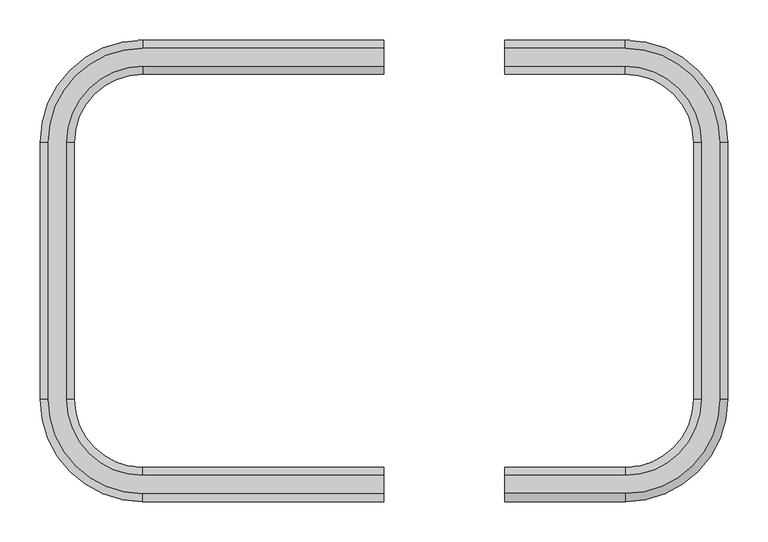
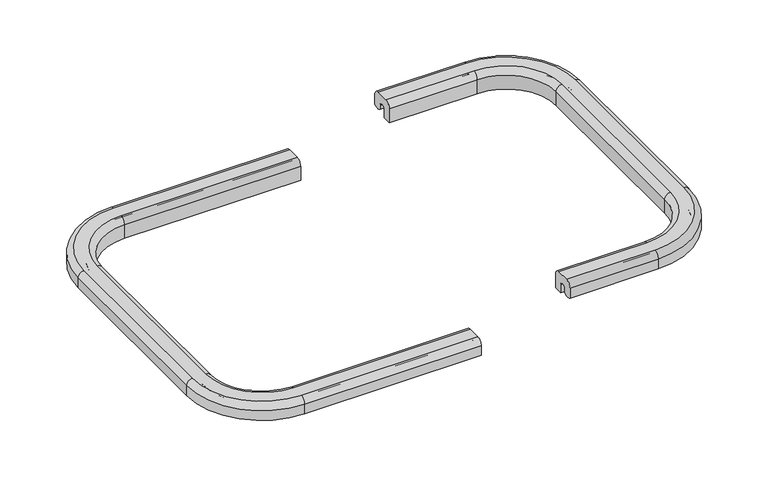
"""IFC4 building model written with IfcOpenShell, lengths in millimetres: furniture geometry, BIMHealth-Cot-LOD2A-v1 : BIMHealth-Cot-LOD2A-v1."""

from ifc_helpers import new_model, si_unit, point, frame, origin, place, context, project, spatial, polyline, circle_curve, ellipse_curve, trimmed, source, transform, mapped, element, save
from ifc_brep_helpers import plane_surface, cylinder_surface, revolved_surface, advanced_brep


def furniture_1190518a(model_context):
    return source(origin(), model_context, "Body", "AdvancedBrep", [
        advanced_brep(
        [(150.0, -272.5, 1063.7133718), (150.0, -272.5, 1078.7133718), (150.0, -277.5, 1083.7133718), (150.0, -280.0, 1083.7133718), (150.0, -285.0, 1078.7133718), (150.0, -285.0, 1071.2133718), (150.0, -300.0, 1071.2133718), (150.0, -300.0, 1088.7133718), (150.0, -290.0, 1098.7133718), (150.0, -267.5, 1098.7133718), (150.0, -257.5, 1088.7133718), (150.0, -257.5, 1063.7133718), (300.0, -272.5, 1063.7133718), (300.0, -272.5, 1078.7133718), (300.0, -277.5, 1083.7133718), (405.0, -172.5, 1083.7133718), (405.0, 147.5, 1083.7133718), (300.0, 252.5, 1083.7133718), (150.0, 252.5, 1083.7133718), (150.0, 255.0, 1083.7133718), (300.0, 255.0, 1083.7133718), (407.5, 147.5, 1083.7133718), (407.5, -172.5, 1083.7133718), (300.0, -280.0, 1083.7133718), (300.0, -285.0, 1078.7133718), (300.0, -285.0, 1071.2133718), (300.0, -300.0, 1071.2133718), (300.0, -300.0, 1088.7133718), (300.0, -290.0, 1098.7133718), (417.5, -172.5, 1098.7133718), (417.5, 147.5, 1098.7133718), (300.0, 265.0, 1098.7133718), (150.0, 265.0, 1098.7133718), (150.0, 242.5, 1098.7133718), (300.0, 242.5, 1098.7133718), (395.0, 147.5, 1098.7133718), (395.0, -172.5, 1098.7133718), (300.0, -267.5, 1098.7133718), (300.0, -257.5, 1088.7133718), (300.0, -257.5, 1063.7133718), (385.0, -172.5, 1063.7133718), (385.0, 147.5, 1063.7133718), (300.0, 232.5, 1063.7133718), (150.0, 232.5, 1063.7133718), (150.0, 247.5, 1063.7133718), (300.0, 247.5, 1063.7133718), (400.0, 147.5, 1063.7133718), (400.0, -172.5, 1063.7133718), (400.0, -172.5, 1078.7133718), (412.5, -172.5, 1078.7133718), (412.5, -172.5, 1071.2133718), (427.5, -172.5, 1071.2133718), (427.5, -172.5, 1088.7133718), (385.0, -172.5, 1088.7133718), (400.0, 147.5, 1078.7133718), (412.5, 147.5, 1078.7133718), (412.5, 147.5, 1071.2133718), (427.5, 147.5, 1071.2133718), (427.5, 147.5, 1088.7133718), (385.0, 147.5, 1088.7133718), (300.0, 247.5, 1078.7133718), (300.0, 260.0, 1078.7133718), (300.0, 260.0, 1071.2133718), (300.0, 275.0, 1071.2133718), (300.0, 275.0, 1088.7133718), (300.0, 232.5, 1088.7133718), (150.0, 232.5, 1088.7133718), (150.0, 275.0, 1088.7133718), (150.0, 275.0, 1071.2133718), (150.0, 260.0, 1071.2133718), (150.0, 260.0, 1078.7133718), (150.0, 247.5, 1078.7133718)],
        [
            (0, 1),
            (1, 2, circle_curve(frame((150.0, -277.5, 1078.7133718), z_axis=(1.0, 0.0, 0.0), x_axis=(0.0, 1.0, 0.0)), 5.0)),
            (2, 3),
            (3, 4, circle_curve(frame((150.0, -280.0, 1078.7133718), z_axis=(1.0, 0.0, 0.0), x_axis=(0.0, 1.0, 0.0)), 5.0)),
            (4, 5),
            (5, 6, circle_curve(frame((150.0, -292.5, 1080.2734209), z_axis=(-1.0, 0.0, 0.0), x_axis=(0.0, 1.0, 0.0)), 11.7615683)),
            (6, 7),
            (7, 8, circle_curve(frame((150.0, -290.0, 1088.7133718), z_axis=(-1.0, 0.0, 0.0), x_axis=(0.0, 1.0, 0.0)), 10.0)),
            (8, 9),
            (9, 10, circle_curve(frame((150.0, -267.5, 1088.7133718), z_axis=(-1.0, 0.0, 0.0), x_axis=(0.0, 1.0, 0.0)), 10.0)),
            (10, 11),
            (11, 0),
            (0, 12),
            (12, 13),
            (13, 1),
            (13, 14, circle_curve(frame((300.0, -277.5, 1078.7133718), z_axis=(1.0, 0.0, 0.0), x_axis=(0.0, 1.0, 0.0)), 5.0)),
            (14, 2),
            (14, 15, circle_curve(frame((300.0, -172.5, 1083.7133718), z_axis=(0.0, 0.0, 1.0), x_axis=(0.0, -1.0, 0.0)), 105.0)),
            (15, 16),
            (16, 17, circle_curve(frame((300.0, 147.5, 1083.7133718), z_axis=(0.0, 0.0, 1.0), x_axis=(1.0, 0.0, 0.0)), 105.0)),
            (17, 18),
            (18, 19),
            (19, 20),
            (20, 21, circle_curve(frame((300.0, 147.5, 1083.7133718), z_axis=(0.0, 0.0, -1.0), x_axis=(1.0, 0.0, 0.0)), 107.5)),
            (21, 22),
            (22, 23, circle_curve(frame((300.0, -172.5, 1083.7133718), z_axis=(0.0, 0.0, -1.0), x_axis=(0.0, -1.0, 0.0)), 107.5)),
            (23, 3),
            (23, 24, circle_curve(frame((300.0, -280.0, 1078.7133718), z_axis=(1.0, 0.0, 0.0), x_axis=(0.0, 1.0, 0.0)), 5.0)),
            (24, 4),
            (24, 25),
            (25, 5),
            (25, 26, circle_curve(frame((300.0, -292.5, 1080.2734209), z_axis=(-1.0, 0.0, 0.0), x_axis=(0.0, 1.0, 0.0)), 11.7615683)),
            (26, 6),
            (26, 27),
            (27, 7),
            (27, 28, circle_curve(frame((300.0, -290.0, 1088.7133718), z_axis=(-1.0, 0.0, 0.0), x_axis=(0.0, 1.0, 0.0)), 10.0)),
            (28, 8),
            (28, 29, circle_curve(frame((300.0, -172.5, 1098.7133718), z_axis=(0.0, 0.0, 1.0), x_axis=(0.0, -1.0, 0.0)), 117.5)),
            (29, 30),
            (30, 31, circle_curve(frame((300.0, 147.5, 1098.7133718), z_axis=(0.0, 0.0, 1.0), x_axis=(1.0, 0.0, 0.0)), 117.5)),
            (31, 32),
            (32, 33),
            (33, 34),
            (34, 35, circle_curve(frame((300.0, 147.5, 1098.7133718), z_axis=(0.0, 0.0, -1.0), x_axis=(1.0, 0.0, 0.0)), 95.0)),
            (35, 36),
            (36, 37, circle_curve(frame((300.0, -172.5, 1098.7133718), z_axis=(0.0, 0.0, -1.0), x_axis=(0.0, -1.0, 0.0)), 95.0)),
            (37, 9),
            (37, 38, circle_curve(frame((300.0, -267.5, 1088.7133718), z_axis=(-1.0, 0.0, 0.0), x_axis=(0.0, 1.0, 0.0)), 10.0)),
            (38, 10),
            (38, 39),
            (39, 11),
            (39, 40, circle_curve(frame((300.0, -172.5, 1063.7133718), z_axis=(0.0, 0.0, 1.0), x_axis=(0.0, -1.0, 0.0)), 85.0)),
            (40, 41),
            (41, 42, circle_curve(frame((300.0, 147.5, 1063.7133718), z_axis=(0.0, 0.0, 1.0), x_axis=(1.0, 0.0, 0.0)), 85.0)),
            (42, 43),
            (43, 44),
            (44, 45),
            (45, 46, circle_curve(frame((300.0, 147.5, 1063.7133718), z_axis=(0.0, 0.0, -1.0), x_axis=(1.0, 0.0, 0.0)), 100.0)),
            (46, 47),
            (47, 12, circle_curve(frame((300.0, -172.5, 1063.7133718), z_axis=(0.0, 0.0, -1.0), x_axis=(0.0, -1.0, 0.0)), 100.0)),
            (48, 13, circle_curve(frame((300.0, -172.5, 1078.7133718), z_axis=(0.0, 0.0, -1.0), x_axis=(0.0, -1.0, 0.0)), 100.0)),
            (47, 48),
            (48, 15, circle_curve(frame((405.0, -172.5, 1078.7133718), z_axis=(0.0, 1.0, 0.0), x_axis=(-1.0, 0.0, 0.0)), 5.0)),
            (49, 24, circle_curve(frame((300.0, -172.5, 1078.7133718), z_axis=(0.0, 0.0, -1.0), x_axis=(0.0, -1.0, 0.0)), 112.5)),
            (22, 49, circle_curve(frame((407.5, -172.5, 1078.7133718), z_axis=(0.0, 1.0, 0.0), x_axis=(-1.0, 0.0, 0.0)), 5.0)),
            (50, 25, circle_curve(frame((300.0, -172.5, 1071.2133718), z_axis=(0.0, 0.0, -1.0), x_axis=(0.0, -1.0, 0.0)), 112.5)),
            (49, 50),
            (51, 26, circle_curve(frame((300.0, -172.5, 1071.2133718), z_axis=(0.0, 0.0, -1.0), x_axis=(0.0, -1.0, 0.0)), 127.5)),
            (50, 51, circle_curve(frame((420.0, -172.5, 1080.2734209), z_axis=(0.0, -1.0, 0.0), x_axis=(-1.0, 0.0, 0.0)), 11.7615683)),
            (52, 27, circle_curve(frame((300.0, -172.5, 1088.7133718), z_axis=(0.0, 0.0, -1.0), x_axis=(0.0, -1.0, 0.0)), 127.5)),
            (51, 52),
            (52, 29, circle_curve(frame((417.5, -172.5, 1088.7133718), z_axis=(0.0, -1.0, 0.0), x_axis=(-1.0, 0.0, 0.0)), 10.0)),
            (53, 38, circle_curve(frame((300.0, -172.5, 1088.7133718), z_axis=(0.0, 0.0, -1.0), x_axis=(0.0, -1.0, 0.0)), 85.0)),
            (36, 53, circle_curve(frame((395.0, -172.5, 1088.7133718), z_axis=(0.0, -1.0, 0.0), x_axis=(-1.0, 0.0, 0.0)), 10.0)),
            (53, 40),
            (46, 54),
            (54, 48),
            (54, 16, circle_curve(frame((405.0, 147.5, 1078.7133718), z_axis=(0.0, 1.0, 0.0), x_axis=(-1.0, 0.0, 0.0)), 5.0)),
            (21, 55, circle_curve(frame((407.5, 147.5, 1078.7133718), z_axis=(0.0, 1.0, 0.0), x_axis=(-1.0, 0.0, 0.0)), 5.0)),
            (55, 49),
            (55, 56),
            (56, 50),
            (56, 57, circle_curve(frame((420.0, 147.5, 1080.2734209), z_axis=(0.0, -1.0, 0.0), x_axis=(-1.0, 0.0, 0.0)), 11.7615683)),
            (57, 51),
            (57, 58),
            (58, 52),
            (58, 30, circle_curve(frame((417.5, 147.5, 1088.7133718), z_axis=(0.0, -1.0, 0.0), x_axis=(-1.0, 0.0, 0.0)), 10.0)),
            (35, 59, circle_curve(frame((395.0, 147.5, 1088.7133718), z_axis=(0.0, -1.0, 0.0), x_axis=(-1.0, 0.0, 0.0)), 10.0)),
            (59, 53),
            (59, 41),
            (60, 54, circle_curve(frame((300.0, 147.5, 1078.7133718), z_axis=(0.0, 0.0, -1.0), x_axis=(1.0, 0.0, 0.0)), 100.0)),
            (45, 60),
            (60, 17, circle_curve(frame((300.0, 252.5, 1078.7133718), z_axis=(-1.0, 0.0, 0.0), x_axis=(0.0, -1.0, 0.0)), 5.0)),
            (61, 55, circle_curve(frame((300.0, 147.5, 1078.7133718), z_axis=(0.0, 0.0, -1.0), x_axis=(1.0, 0.0, 0.0)), 112.5)),
            (20, 61, circle_curve(frame((300.0, 255.0, 1078.7133718), z_axis=(-1.0, 0.0, 0.0), x_axis=(0.0, -1.0, 0.0)), 5.0)),
            (62, 56, circle_curve(frame((300.0, 147.5, 1071.2133718), z_axis=(0.0, 0.0, -1.0), x_axis=(1.0, 0.0, 0.0)), 112.5)),
            (61, 62),
            (63, 57, circle_curve(frame((300.0, 147.5, 1071.2133718), z_axis=(0.0, 0.0, -1.0), x_axis=(1.0, 0.0, 0.0)), 127.5)),
            (62, 63, circle_curve(frame((300.0, 267.5, 1080.2734209), z_axis=(1.0, 0.0, 0.0), x_axis=(0.0, -1.0, 0.0)), 11.7615683)),
            (64, 58, circle_curve(frame((300.0, 147.5, 1088.7133718), z_axis=(0.0, 0.0, -1.0), x_axis=(1.0, 0.0, 0.0)), 127.5)),
            (63, 64),
            (64, 31, circle_curve(frame((300.0, 265.0, 1088.7133718), z_axis=(1.0, 0.0, 0.0), x_axis=(0.0, -1.0, 0.0)), 10.0)),
            (65, 59, circle_curve(frame((300.0, 147.5, 1088.7133718), z_axis=(0.0, 0.0, -1.0), x_axis=(1.0, 0.0, 0.0)), 85.0)),
            (34, 65, circle_curve(frame((300.0, 242.5, 1088.7133718), z_axis=(1.0, 0.0, 0.0), x_axis=(0.0, -1.0, 0.0)), 10.0)),
            (65, 42),
            (43, 66),
            (66, 33, circle_curve(frame((150.0, 242.5, 1088.7133718), z_axis=(-1.0, 0.0, 0.0), x_axis=(0.0, -1.0, 0.0)), 10.0)),
            (32, 67, circle_curve(frame((150.0, 265.0, 1088.7133718), z_axis=(-1.0, 0.0, 0.0), x_axis=(0.0, -1.0, 0.0)), 10.0)),
            (67, 68),
            (68, 69, circle_curve(frame((150.0, 267.5, 1080.2734209), z_axis=(-1.0, 0.0, 0.0), x_axis=(0.0, -1.0, 0.0)), 11.7615683)),
            (69, 70),
            (70, 19, circle_curve(frame((150.0, 255.0, 1078.7133718), z_axis=(1.0, 0.0, 0.0), x_axis=(0.0, -1.0, 0.0)), 5.0)),
            (18, 71, circle_curve(frame((150.0, 252.5, 1078.7133718), z_axis=(1.0, 0.0, 0.0), x_axis=(0.0, -1.0, 0.0)), 5.0)),
            (71, 44),
            (71, 60),
            (70, 61),
            (69, 62),
            (68, 63),
            (67, 64),
            (66, 65),
        ],
        [
            plane_surface(frame((150.0, -265.0, 1063.7133718), z_axis=(-1.0, 0.0, 0.0), x_axis=(0.0, 0.0, 1.0))),
            plane_surface(frame((150.0, -272.5, 1063.7133718), z_axis=(0.0, -1.0, 0.0), x_axis=(1.0, 0.0, 0.0))),
            revolved_surface(polyline([(300.0, -272.5, 1078.7133718), (150.0, -272.5, 1078.7133718)]), (150.0, -277.5, 1078.7133718), (1.0, 0.0, 0.0)),
            plane_surface(frame((150.0, -277.5, 1083.7133718), z_axis=(0.0, 0.0, -1.0), x_axis=(1.0, 0.0, 0.0))),
            revolved_surface(polyline([(300.0, -275.0, 1078.7133718), (150.0, -275.0, 1078.7133718)]), (150.0, -280.0, 1078.7133718), (1.0, 0.0, 0.0)),
            plane_surface(frame((150.0, -285.0, 1078.7133718), z_axis=(0.0, 1.0, 0.0), x_axis=(1.0, 0.0, 0.0))),
            cylinder_surface(frame((150.0, -292.5, 1080.2734209), z_axis=(-1.0, 0.0, 0.0), x_axis=(0.0, 1.0, 0.0)), 11.7615683),
            plane_surface(frame((150.0, -300.0, 1071.2133718), z_axis=(0.0, -1.0, 0.0), x_axis=(1.0, 0.0, 0.0))),
            cylinder_surface(frame((150.0, -290.0, 1088.7133718), z_axis=(-1.0, 0.0, 0.0), x_axis=(0.0, 1.0, 0.0)), 10.0),
            plane_surface(frame((150.0, -290.0, 1098.7133718), z_axis=(0.0, 0.0, 1.0), x_axis=(1.0, 0.0, 0.0))),
            cylinder_surface(frame((150.0, -267.5, 1088.7133718), z_axis=(-1.0, 0.0, 0.0), x_axis=(0.0, 1.0, 0.0)), 10.0),
            plane_surface(frame((150.0, -257.5, 1088.7133718), z_axis=(0.0, 1.0, 0.0), x_axis=(1.0, 0.0, 0.0))),
            plane_surface(frame((150.0, -257.5, 1063.7133718), z_axis=(0.0, 0.0, -1.0), x_axis=(1.0, 0.0, 0.0))),
            cylinder_surface(frame((300.0, -172.5, 1063.7133718), z_axis=(0.0, 0.0, 1.0), x_axis=(0.0, -1.0, 0.0)), 100.0),
            revolved_surface(trimmed(ellipse_curve(frame((300.0, -277.5, 1078.7133718), z_axis=(1.0, 0.0, 0.0), x_axis=(0.0, 1.0, 0.0)), 5.0, 5.0), [point((300.0, -272.5, 1078.7133718))], [point((300.0, -277.5, 1083.7133718))], True, "CARTESIAN"), (300.0, -172.5, 1063.7133718), (0.0, 0.0, 1.0)),
            revolved_surface(trimmed(ellipse_curve(frame((300.0, -280.0, 1078.7133718), z_axis=(1.0, 0.0, 0.0), x_axis=(0.0, 1.0, 0.0)), 5.0, 5.0), [point((300.0, -280.0, 1083.7133718))], [point((300.0, -285.0, 1078.7133718))], True, "CARTESIAN"), (300.0, -172.5, 1063.7133718), (0.0, 0.0, 1.0)),
            revolved_surface(polyline([(300.0, -285.0, 1078.7133718), (300.0, -285.0, 1071.2133718)]), (300.0, -172.5, 1063.7133718), (0.0, 0.0, 1.0)),
            revolved_surface(trimmed(ellipse_curve(frame((300.0, -292.5, 1080.2734209), z_axis=(-1.0, 0.0, 0.0), x_axis=(0.0, 1.0, 0.0)), 11.7615683, 11.7615683), [point((300.0, -285.0, 1071.2133718))], [point((300.0, -300.0, 1071.2133718))], True, "CARTESIAN"), (300.0, -172.5, 1063.7133718), (0.0, 0.0, 1.0)),
            cylinder_surface(frame((300.0, -172.5, 1063.7133718), z_axis=(0.0, 0.0, 1.0), x_axis=(0.0, -1.0, 0.0)), 127.5),
            revolved_surface(trimmed(ellipse_curve(frame((300.0, -290.0, 1088.7133718), z_axis=(-1.0, 0.0, 0.0), x_axis=(0.0, 1.0, 0.0)), 10.0, 10.0), [point((300.0, -300.0, 1088.7133718))], [point((300.0, -290.0, 1098.7133718))], True, "CARTESIAN"), (300.0, -172.5, 1063.7133718), (0.0, 0.0, 1.0)),
            revolved_surface(trimmed(ellipse_curve(frame((300.0, -267.5, 1088.7133718), z_axis=(-1.0, 0.0, 0.0), x_axis=(0.0, 1.0, 0.0)), 10.0, 10.0), [point((300.0, -267.5, 1098.7133718))], [point((300.0, -257.5, 1088.7133718))], True, "CARTESIAN"), (300.0, -172.5, 1063.7133718), (0.0, 0.0, 1.0)),
            revolved_surface(polyline([(300.0, -257.5, 1088.7133718), (300.0, -257.5, 1063.7133718)]), (300.0, -172.5, 1063.7133718), (0.0, 0.0, 1.0)),
            plane_surface(frame((400.0, -172.5, 1063.7133718), z_axis=(1.0, 0.0, 0.0), x_axis=(0.0, 1.0, 0.0))),
            revolved_surface(polyline([(400.0, 147.5, 1078.7133718), (400.0, -172.5, 1078.7133718)]), (405.0, -172.5, 1078.7133718), (0.0, 1.0, 0.0)),
            revolved_surface(polyline([(402.5, 147.5, 1078.7133718), (402.5, -172.5, 1078.7133718)]), (407.5, -172.5, 1078.7133718), (0.0, 1.0, 0.0)),
            plane_surface(frame((412.5, -172.5, 1078.7133718), z_axis=(-1.0, 0.0, 0.0), x_axis=(0.0, 1.0, 0.0))),
            cylinder_surface(frame((420.0, -172.5, 1080.2734209), z_axis=(0.0, -1.0, 0.0), x_axis=(-1.0, 0.0, 0.0)), 11.7615683),
            plane_surface(frame((427.5, -172.5, 1071.2133718), z_axis=(1.0, 0.0, 0.0), x_axis=(0.0, 1.0, 0.0))),
            cylinder_surface(frame((417.5, -172.5, 1088.7133718), z_axis=(0.0, -1.0, 0.0), x_axis=(-1.0, 0.0, 0.0)), 10.0),
            cylinder_surface(frame((395.0, -172.5, 1088.7133718), z_axis=(0.0, -1.0, 0.0), x_axis=(-1.0, 0.0, 0.0)), 10.0),
            plane_surface(frame((385.0, -172.5, 1088.7133718), z_axis=(-1.0, 0.0, 0.0), x_axis=(0.0, 1.0, 0.0))),
            cylinder_surface(frame((300.0, 147.5, 1063.7133718), z_axis=(0.0, 0.0, 1.0), x_axis=(1.0, 0.0, 0.0)), 100.0),
            revolved_surface(trimmed(ellipse_curve(frame((405.0, 147.5, 1078.7133718), z_axis=(0.0, 1.0, 0.0), x_axis=(-1.0, 0.0, 0.0)), 5.0, 5.0), [point((400.0, 147.5, 1078.7133718))], [point((405.0, 147.5, 1083.7133718))], True, "CARTESIAN"), (300.0, 147.5, 1063.7133718), (0.0, 0.0, 1.0)),
            revolved_surface(trimmed(ellipse_curve(frame((407.5, 147.5, 1078.7133718), z_axis=(0.0, 1.0, 0.0), x_axis=(-1.0, 0.0, 0.0)), 5.0, 5.0), [point((407.5, 147.5, 1083.7133718))], [point((412.5, 147.5, 1078.7133718))], True, "CARTESIAN"), (300.0, 147.5, 1063.7133718), (0.0, 0.0, 1.0)),
            revolved_surface(polyline([(412.5, 147.5, 1078.7133718), (412.5, 147.5, 1071.2133718)]), (300.0, 147.5, 1063.7133718), (0.0, 0.0, 1.0)),
            revolved_surface(trimmed(ellipse_curve(frame((420.0, 147.5, 1080.2734209), z_axis=(0.0, -1.0, 0.0), x_axis=(-1.0, 0.0, 0.0)), 11.7615683, 11.7615683), [point((412.5, 147.5, 1071.2133718))], [point((427.5, 147.5, 1071.2133718))], True, "CARTESIAN"), (300.0, 147.5, 1063.7133718), (0.0, 0.0, 1.0)),
            cylinder_surface(frame((300.0, 147.5, 1063.7133718), z_axis=(0.0, 0.0, 1.0), x_axis=(1.0, 0.0, 0.0)), 127.5),
            revolved_surface(trimmed(ellipse_curve(frame((417.5, 147.5, 1088.7133718), z_axis=(0.0, -1.0, 0.0), x_axis=(-1.0, 0.0, 0.0)), 10.0, 10.0), [point((427.5, 147.5, 1088.7133718))], [point((417.5, 147.5, 1098.7133718))], True, "CARTESIAN"), (300.0, 147.5, 1063.7133718), (0.0, 0.0, 1.0)),
            revolved_surface(trimmed(ellipse_curve(frame((395.0, 147.5, 1088.7133718), z_axis=(0.0, -1.0, 0.0), x_axis=(-1.0, 0.0, 0.0)), 10.0, 10.0), [point((395.0, 147.5, 1098.7133718))], [point((385.0, 147.5, 1088.7133718))], True, "CARTESIAN"), (300.0, 147.5, 1063.7133718), (0.0, 0.0, 1.0)),
            revolved_surface(polyline([(385.0, 147.5, 1088.7133718), (385.0, 147.5, 1063.7133718)]), (300.0, 147.5, 1063.7133718), (0.0, 0.0, 1.0)),
            plane_surface(frame((150.0, 240.0, 1063.7133718), z_axis=(-1.0, 0.0, 0.0), x_axis=(0.0, 0.0, 1.0))),
            plane_surface(frame((300.0, 247.5, 1063.7133718), z_axis=(0.0, 1.0, 0.0), x_axis=(-1.0, 0.0, 0.0))),
            revolved_surface(polyline([(150.0, 247.5, 1078.7133718), (300.0, 247.5, 1078.7133718)]), (300.0, 252.5, 1078.7133718), (-1.0, 0.0, 0.0)),
            revolved_surface(polyline([(150.0, 250.0, 1078.7133718), (300.0, 250.0, 1078.7133718)]), (300.0, 255.0, 1078.7133718), (-1.0, 0.0, 0.0)),
            plane_surface(frame((300.0, 260.0, 1078.7133718), z_axis=(0.0, -1.0, 0.0), x_axis=(-1.0, 0.0, 0.0))),
            cylinder_surface(frame((300.0, 267.5, 1080.2734209), z_axis=(1.0, 0.0, 0.0), x_axis=(0.0, -1.0, 0.0)), 11.7615683),
            plane_surface(frame((300.0, 275.0, 1071.2133718), z_axis=(0.0, 1.0, 0.0), x_axis=(-1.0, 0.0, 0.0))),
            cylinder_surface(frame((300.0, 265.0, 1088.7133718), z_axis=(1.0, 0.0, 0.0), x_axis=(0.0, -1.0, 0.0)), 10.0),
            cylinder_surface(frame((300.0, 242.5, 1088.7133718), z_axis=(1.0, 0.0, 0.0), x_axis=(0.0, -1.0, 0.0)), 10.0),
            plane_surface(frame((300.0, 232.5, 1088.7133718), z_axis=(0.0, -1.0, 0.0), x_axis=(-1.0, 0.0, 0.0))),
        ],
        [
            (0, [[1, 2, 3, 4, 5, 6, 7, 8, 9, 10, 11, 12]]),
            (1, [[-1, 13, 14, 15]]),
            (2, [[-2, -15, 16, 17]]),
            (3, [[-3, -17, 18, 19, 20, 21, 22, 23, 24, 25, 26, 27]]),
            (4, [[-4, -27, 28, 29]]),
            (5, [[-5, -29, 30, 31]]),
            (6, [[-6, -31, 32, 33]]),
            (7, [[-7, -33, 34, 35]]),
            (8, [[-8, -35, 36, 37]]),
            (9, [[-9, -37, 38, 39, 40, 41, 42, 43, 44, 45, 46, 47]]),
            (10, [[-10, -47, 48, 49]]),
            (11, [[-11, -49, 50, 51]]),
            (12, [[-12, -51, 52, 53, 54, 55, 56, 57, 58, 59, 60, -13]]),
            (13, [[61, -14, -60, 62]]),
            (14, [[-18, -16, -61, 63]]),
            (15, [[64, -28, -26, 65]]),
            (16, [[66, -30, -64, 67]]),
            (17, [[68, -32, -66, 69]]),
            (18, [[70, -34, -68, 71]]),
            (19, [[-38, -36, -70, 72]]),
            (20, [[73, -48, -46, 74]]),
            (21, [[-52, -50, -73, 75]]),
            (22, [[-62, -59, 76, 77]]),
            (23, [[-63, -77, 78, -19]]),
            (24, [[-65, -25, 79, 80]]),
            (25, [[-67, -80, 81, 82]]),
            (26, [[-69, -82, 83, 84]]),
            (27, [[-71, -84, 85, 86]]),
            (28, [[-72, -86, 87, -39]]),
            (29, [[-74, -45, 88, 89]]),
            (30, [[-75, -89, 90, -53]]),
            (31, [[91, -76, -58, 92]]),
            (32, [[-20, -78, -91, 93]]),
            (33, [[94, -79, -24, 95]]),
            (34, [[96, -81, -94, 97]]),
            (35, [[98, -83, -96, 99]]),
            (36, [[100, -85, -98, 101]]),
            (37, [[-40, -87, -100, 102]]),
            (38, [[103, -88, -44, 104]]),
            (39, [[-54, -90, -103, 105]]),
            (40, [[-56, 106, 107, -42, 108, 109, 110, 111, 112, -22, 113, 114]]),
            (41, [[-92, -57, -114, 115]]),
            (42, [[-93, -115, -113, -21]]),
            (43, [[-95, -23, -112, 116]]),
            (44, [[-97, -116, -111, 117]]),
            (45, [[-99, -117, -110, 118]]),
            (46, [[-101, -118, -109, 119]]),
            (47, [[-102, -119, -108, -41]]),
            (48, [[-104, -43, -107, 120]]),
            (49, [[-105, -120, -106, -55]]),
        ],
    ),
        advanced_brep(
        [(-1.1191289, -272.5, 1013.3435359), (-1.1191289, -272.5, 1028.3435359), (-301.1191289, -272.5, 1028.3435359), (-301.1191289, -272.5, 1013.3435359), (-1.1191289, -277.5, 1033.3435359), (-301.1191289, -277.5, 1033.3435359), (-1.1191289, -280.0, 1033.3435359), (-301.1191289, -280.0, 1033.3435359), (-408.6191289, -172.5, 1033.3435359), (-408.6191289, 147.5, 1033.3435359), (-301.1191289, 255.0, 1033.3435359), (-1.1191289, 255.0, 1033.3435359), (-1.1191289, 252.5, 1033.3435359), (-301.1191289, 252.5, 1033.3435359), (-406.1191289, 147.5, 1033.3435359), (-406.1191289, -172.5, 1033.3435359), (-1.1191289, -285.0, 1028.3435359), (-301.1191289, -285.0, 1028.3435359), (-1.1191289, -285.0, 1020.8435359), (-301.1191289, -285.0, 1020.8435359), (-1.1191289, -300.0, 1020.8435359), (-301.1191289, -300.0, 1020.8435359), (-1.1191289, -300.0, 1038.3435359), (-301.1191289, -300.0, 1038.3435359), (-1.1191289, -290.0, 1048.3435359), (-301.1191289, -290.0, 1048.3435359), (-1.1191289, -267.5, 1048.3435359), (-301.1191289, -267.5, 1048.3435359), (-396.1191289, -172.5, 1048.3435359), (-396.1191289, 147.5, 1048.3435359), (-301.1191289, 242.5, 1048.3435359), (-1.1191289, 242.5, 1048.3435359), (-1.1191289, 265.0, 1048.3435359), (-301.1191289, 265.0, 1048.3435359), (-418.6191289, 147.5, 1048.3435359), (-418.6191289, -172.5, 1048.3435359), (-1.1191289, -257.5, 1038.3435359), (-301.1191289, -257.5, 1038.3435359), (-1.1191289, -257.5, 1013.3435359), (-301.1191289, -257.5, 1013.3435359), (-401.1191289, -172.5, 1013.3435359), (-401.1191289, 147.5, 1013.3435359), (-301.1191289, 247.5, 1013.3435359), (-1.1191289, 247.5, 1013.3435359), (-1.1191289, 232.5, 1013.3435359), (-301.1191289, 232.5, 1013.3435359), (-386.1191289, 147.5, 1013.3435359), (-386.1191289, -172.5, 1013.3435359), (-401.1191289, -172.5, 1028.3435359), (-413.6191289, -172.5, 1028.3435359), (-413.6191289, -172.5, 1020.8435359), (-428.6191289, -172.5, 1020.8435359), (-428.6191289, -172.5, 1038.3435359), (-386.1191289, -172.5, 1038.3435359), (-401.1191289, 147.5, 1028.3435359), (-413.6191289, 147.5, 1028.3435359), (-413.6191289, 147.5, 1020.8435359), (-428.6191289, 147.5, 1020.8435359), (-428.6191289, 147.5, 1038.3435359), (-386.1191289, 147.5, 1038.3435359), (-301.1191289, 247.5, 1028.3435359), (-301.1191289, 260.0, 1028.3435359), (-301.1191289, 260.0, 1020.8435359), (-301.1191289, 275.0, 1020.8435359), (-301.1191289, 275.0, 1038.3435359), (-301.1191289, 232.5, 1038.3435359), (-1.1191289, 247.5, 1028.3435359), (-1.1191289, 260.0, 1028.3435359), (-1.1191289, 260.0, 1020.8435359), (-1.1191289, 275.0, 1020.8435359), (-1.1191289, 275.0, 1038.3435359), (-1.1191289, 232.5, 1038.3435359)],
        [
            (0, 1),
            (1, 2),
            (2, 3),
            (3, 0),
            (1, 4, circle_curve(frame((-1.1191289, -277.5, 1028.3435359), z_axis=(1.0, 0.0, 0.0), x_axis=(0.0, 1.0, 0.0)), 5.0)),
            (4, 5),
            (5, 2, circle_curve(frame((-301.1191289, -277.5, 1028.3435359), z_axis=(-1.0, 0.0, 0.0), x_axis=(0.0, 1.0, 0.0)), 5.0)),
            (4, 6),
            (6, 7),
            (7, 8, circle_curve(frame((-301.1191289, -172.5, 1033.3435359), z_axis=(0.0, 0.0, -1.0), x_axis=(0.0, -1.0, 0.0)), 107.5)),
            (8, 9),
            (9, 10, circle_curve(frame((-301.1191289, 147.5, 1033.3435359), z_axis=(0.0, 0.0, -1.0), x_axis=(-1.0, 0.0, 0.0)), 107.5)),
            (10, 11),
            (11, 12),
            (12, 13),
            (13, 14, circle_curve(frame((-301.1191289, 147.5, 1033.3435359), z_axis=(0.0, 0.0, 1.0), x_axis=(-1.0, 0.0, 0.0)), 105.0)),
            (14, 15),
            (15, 5, circle_curve(frame((-301.1191289, -172.5, 1033.3435359), z_axis=(0.0, 0.0, 1.0), x_axis=(0.0, -1.0, 0.0)), 105.0)),
            (6, 16, circle_curve(frame((-1.1191289, -280.0, 1028.3435359), z_axis=(1.0, 0.0, 0.0), x_axis=(0.0, 1.0, 0.0)), 5.0)),
            (16, 17),
            (17, 7, circle_curve(frame((-301.1191289, -280.0, 1028.3435359), z_axis=(-1.0, 0.0, 0.0), x_axis=(0.0, 1.0, 0.0)), 5.0)),
            (16, 18),
            (18, 19),
            (19, 17),
            (18, 20, circle_curve(frame((-1.1191289, -292.5, 1029.903585), z_axis=(-1.0, 0.0, 0.0), x_axis=(0.0, 1.0, 0.0)), 11.7615683)),
            (20, 21),
            (21, 19, circle_curve(frame((-301.1191289, -292.5, 1029.903585), z_axis=(1.0, 0.0, 0.0), x_axis=(0.0, 1.0, 0.0)), 11.7615683)),
            (20, 22),
            (22, 23),
            (23, 21),
            (22, 24, circle_curve(frame((-1.1191289, -290.0, 1038.3435359), z_axis=(-1.0, 0.0, 0.0), x_axis=(0.0, 1.0, 0.0)), 10.0)),
            (24, 25),
            (25, 23, circle_curve(frame((-301.1191289, -290.0, 1038.3435359), z_axis=(1.0, 0.0, 0.0), x_axis=(0.0, 1.0, 0.0)), 10.0)),
            (24, 26),
            (26, 27),
            (27, 28, circle_curve(frame((-301.1191289, -172.5, 1048.3435359), z_axis=(0.0, 0.0, -1.0), x_axis=(0.0, -1.0, 0.0)), 95.0)),
            (28, 29),
            (29, 30, circle_curve(frame((-301.1191289, 147.5, 1048.3435359), z_axis=(0.0, 0.0, -1.0), x_axis=(-1.0, 0.0, 0.0)), 95.0)),
            (30, 31),
            (31, 32),
            (32, 33),
            (33, 34, circle_curve(frame((-301.1191289, 147.5, 1048.3435359), z_axis=(0.0, 0.0, 1.0), x_axis=(-1.0, 0.0, 0.0)), 117.5)),
            (34, 35),
            (35, 25, circle_curve(frame((-301.1191289, -172.5, 1048.3435359), z_axis=(0.0, 0.0, 1.0), x_axis=(0.0, -1.0, 0.0)), 117.5)),
            (26, 36, circle_curve(frame((-1.1191289, -267.5, 1038.3435359), z_axis=(-1.0, 0.0, 0.0), x_axis=(0.0, 1.0, 0.0)), 10.0)),
            (36, 37),
            (37, 27, circle_curve(frame((-301.1191289, -267.5, 1038.3435359), z_axis=(1.0, 0.0, 0.0), x_axis=(0.0, 1.0, 0.0)), 10.0)),
            (36, 38),
            (38, 39),
            (39, 37),
            (38, 0),
            (3, 40, circle_curve(frame((-301.1191289, -172.5, 1013.3435359), z_axis=(0.0, 0.0, -1.0), x_axis=(0.0, -1.0, 0.0)), 100.0)),
            (40, 41),
            (41, 42, circle_curve(frame((-301.1191289, 147.5, 1013.3435359), z_axis=(0.0, 0.0, -1.0), x_axis=(-1.0, 0.0, 0.0)), 100.0)),
            (42, 43),
            (43, 44),
            (44, 45),
            (45, 46, circle_curve(frame((-301.1191289, 147.5, 1013.3435359), z_axis=(0.0, 0.0, 1.0), x_axis=(-1.0, 0.0, 0.0)), 85.0)),
            (46, 47),
            (47, 39, circle_curve(frame((-301.1191289, -172.5, 1013.3435359), z_axis=(0.0, 0.0, 1.0), x_axis=(0.0, -1.0, 0.0)), 85.0)),
            (2, 48, circle_curve(frame((-301.1191289, -172.5, 1028.3435359), z_axis=(0.0, 0.0, -1.0), x_axis=(0.0, -1.0, 0.0)), 100.0)),
            (48, 40),
            (15, 48, circle_curve(frame((-406.1191289, -172.5, 1028.3435359), z_axis=(0.0, 1.0, 0.0), x_axis=(1.0, 0.0, 0.0)), 5.0)),
            (17, 49, circle_curve(frame((-301.1191289, -172.5, 1028.3435359), z_axis=(0.0, 0.0, -1.0), x_axis=(0.0, -1.0, 0.0)), 112.5)),
            (49, 8, circle_curve(frame((-408.6191289, -172.5, 1028.3435359), z_axis=(0.0, 1.0, 0.0), x_axis=(1.0, 0.0, 0.0)), 5.0)),
            (19, 50, circle_curve(frame((-301.1191289, -172.5, 1020.8435359), z_axis=(0.0, 0.0, -1.0), x_axis=(0.0, -1.0, 0.0)), 112.5)),
            (50, 49),
            (21, 51, circle_curve(frame((-301.1191289, -172.5, 1020.8435359), z_axis=(0.0, 0.0, -1.0), x_axis=(0.0, -1.0, 0.0)), 127.5)),
            (51, 50, circle_curve(frame((-421.1191289, -172.5, 1029.903585), z_axis=(0.0, -1.0, 0.0), x_axis=(1.0, 0.0, 0.0)), 11.7615683)),
            (23, 52, circle_curve(frame((-301.1191289, -172.5, 1038.3435359), z_axis=(0.0, 0.0, -1.0), x_axis=(0.0, -1.0, 0.0)), 127.5)),
            (52, 51),
            (35, 52, circle_curve(frame((-418.6191289, -172.5, 1038.3435359), z_axis=(0.0, -1.0, 0.0), x_axis=(1.0, 0.0, 0.0)), 10.0)),
            (37, 53, circle_curve(frame((-301.1191289, -172.5, 1038.3435359), z_axis=(0.0, 0.0, -1.0), x_axis=(0.0, -1.0, 0.0)), 85.0)),
            (53, 28, circle_curve(frame((-396.1191289, -172.5, 1038.3435359), z_axis=(0.0, -1.0, 0.0), x_axis=(1.0, 0.0, 0.0)), 10.0)),
            (47, 53),
            (48, 54),
            (54, 41),
            (14, 54, circle_curve(frame((-406.1191289, 147.5, 1028.3435359), z_axis=(0.0, 1.0, 0.0), x_axis=(1.0, 0.0, 0.0)), 5.0)),
            (49, 55),
            (55, 9, circle_curve(frame((-408.6191289, 147.5, 1028.3435359), z_axis=(0.0, 1.0, 0.0), x_axis=(1.0, 0.0, 0.0)), 5.0)),
            (50, 56),
            (56, 55),
            (51, 57),
            (57, 56, circle_curve(frame((-421.1191289, 147.5, 1029.903585), z_axis=(0.0, -1.0, 0.0), x_axis=(1.0, 0.0, 0.0)), 11.7615683)),
            (52, 58),
            (58, 57),
            (34, 58, circle_curve(frame((-418.6191289, 147.5, 1038.3435359), z_axis=(0.0, -1.0, 0.0), x_axis=(1.0, 0.0, 0.0)), 10.0)),
            (53, 59),
            (59, 29, circle_curve(frame((-396.1191289, 147.5, 1038.3435359), z_axis=(0.0, -1.0, 0.0), x_axis=(1.0, 0.0, 0.0)), 10.0)),
            (46, 59),
            (54, 60, circle_curve(frame((-301.1191289, 147.5, 1028.3435359), z_axis=(0.0, 0.0, -1.0), x_axis=(-1.0, 0.0, 0.0)), 100.0)),
            (60, 42),
            (13, 60, circle_curve(frame((-301.1191289, 252.5, 1028.3435359), z_axis=(1.0, 0.0, 0.0), x_axis=(0.0, -1.0, 0.0)), 5.0)),
            (55, 61, circle_curve(frame((-301.1191289, 147.5, 1028.3435359), z_axis=(0.0, 0.0, -1.0), x_axis=(-1.0, 0.0, 0.0)), 112.5)),
            (61, 10, circle_curve(frame((-301.1191289, 255.0, 1028.3435359), z_axis=(1.0, 0.0, 0.0), x_axis=(0.0, -1.0, 0.0)), 5.0)),
            (56, 62, circle_curve(frame((-301.1191289, 147.5, 1020.8435359), z_axis=(0.0, 0.0, -1.0), x_axis=(-1.0, 0.0, 0.0)), 112.5)),
            (62, 61),
            (57, 63, circle_curve(frame((-301.1191289, 147.5, 1020.8435359), z_axis=(0.0, 0.0, -1.0), x_axis=(-1.0, 0.0, 0.0)), 127.5)),
            (63, 62, circle_curve(frame((-301.1191289, 267.5, 1029.903585), z_axis=(-1.0, 0.0, 0.0), x_axis=(0.0, -1.0, 0.0)), 11.7615683)),
            (58, 64, circle_curve(frame((-301.1191289, 147.5, 1038.3435359), z_axis=(0.0, 0.0, -1.0), x_axis=(-1.0, 0.0, 0.0)), 127.5)),
            (64, 63),
            (33, 64, circle_curve(frame((-301.1191289, 265.0, 1038.3435359), z_axis=(-1.0, 0.0, 0.0), x_axis=(0.0, -1.0, 0.0)), 10.0)),
            (59, 65, circle_curve(frame((-301.1191289, 147.5, 1038.3435359), z_axis=(0.0, 0.0, -1.0), x_axis=(-1.0, 0.0, 0.0)), 85.0)),
            (65, 30, circle_curve(frame((-301.1191289, 242.5, 1038.3435359), z_axis=(-1.0, 0.0, 0.0), x_axis=(0.0, -1.0, 0.0)), 10.0)),
            (45, 65),
            (43, 66),
            (66, 12, circle_curve(frame((-1.1191289, 252.5, 1028.3435359), z_axis=(-1.0, 0.0, 0.0), x_axis=(0.0, -1.0, 0.0)), 5.0)),
            (11, 67, circle_curve(frame((-1.1191289, 255.0, 1028.3435359), z_axis=(-1.0, 0.0, 0.0), x_axis=(0.0, -1.0, 0.0)), 5.0)),
            (67, 68),
            (68, 69, circle_curve(frame((-1.1191289, 267.5, 1029.903585), z_axis=(1.0, 0.0, 0.0), x_axis=(0.0, -1.0, 0.0)), 11.7615683)),
            (69, 70),
            (70, 32, circle_curve(frame((-1.1191289, 265.0, 1038.3435359), z_axis=(1.0, 0.0, 0.0), x_axis=(0.0, -1.0, 0.0)), 10.0)),
            (31, 71, circle_curve(frame((-1.1191289, 242.5, 1038.3435359), z_axis=(1.0, 0.0, 0.0), x_axis=(0.0, -1.0, 0.0)), 10.0)),
            (71, 44),
            (60, 66),
            (61, 67),
            (62, 68),
            (63, 69),
            (64, 70),
            (65, 71),
        ],
        [
            plane_surface(frame((-1.1191289, -272.5, 1028.3435359), z_axis=(0.0, -1.0, 0.0), x_axis=(-1.0, 0.0, 0.0))),
            revolved_surface(polyline([(-301.1191289, -272.5, 1028.3435359), (-1.1191289, -272.5, 1028.3435359)]), (-1.1191289, -277.5, 1028.3435359), (-1.0, 0.0, 0.0)),
            plane_surface(frame((-1.1191289, -280.0, 1033.3435359), z_axis=(0.0, 0.0, -1.0), x_axis=(-1.0, 0.0, 0.0))),
            revolved_surface(polyline([(-301.1191289, -275.0, 1028.3435359), (-1.1191289, -275.0, 1028.3435359)]), (-1.1191289, -280.0, 1028.3435359), (-1.0, 0.0, 0.0)),
            plane_surface(frame((-1.1191289, -285.0, 1020.8435359), z_axis=(0.0, 1.0, 0.0), x_axis=(-1.0, 0.0, 0.0))),
            cylinder_surface(frame((-1.1191289, -292.5, 1029.903585), z_axis=(1.0, 0.0, 0.0), x_axis=(0.0, 1.0, 0.0)), 11.7615683),
            plane_surface(frame((-1.1191289, -300.0, 1038.3435359), z_axis=(0.0, -1.0, 0.0), x_axis=(-1.0, 0.0, 0.0))),
            cylinder_surface(frame((-1.1191289, -290.0, 1038.3435359), z_axis=(1.0, 0.0, 0.0), x_axis=(0.0, 1.0, 0.0)), 10.0),
            plane_surface(frame((-1.1191289, -267.5, 1048.3435359), z_axis=(0.0, 0.0, 1.0), x_axis=(-1.0, 0.0, 0.0))),
            cylinder_surface(frame((-1.1191289, -267.5, 1038.3435359), z_axis=(1.0, 0.0, 0.0), x_axis=(0.0, 1.0, 0.0)), 10.0),
            plane_surface(frame((-1.1191289, -257.5, 1013.3435359), z_axis=(0.0, 1.0, 0.0), x_axis=(-1.0, 0.0, 0.0))),
            plane_surface(frame((-1.1191289, -272.5, 1013.3435359), z_axis=(0.0, 0.0, -1.0), x_axis=(-1.0, 0.0, 0.0))),
            cylinder_surface(frame((-301.1191289, -172.5, 1013.3435359), z_axis=(0.0, 0.0, -1.0), x_axis=(0.0, -1.0, 0.0)), 100.0),
            revolved_surface(trimmed(ellipse_curve(frame((-301.1191289, -277.5, 1028.3435359), z_axis=(-1.0, 0.0, 0.0), x_axis=(0.0, 1.0, 0.0)), 5.0, 5.0), [point((-301.1191289, -277.5, 1033.3435359))], [point((-301.1191289, -272.5, 1028.3435359))], True, "CARTESIAN"), (-301.1191289, -172.5, 1013.3435359), (0.0, 0.0, -1.0)),
            revolved_surface(trimmed(ellipse_curve(frame((-301.1191289, -280.0, 1028.3435359), z_axis=(-1.0, 0.0, 0.0), x_axis=(0.0, 1.0, 0.0)), 5.0, 5.0), [point((-301.1191289, -285.0, 1028.3435359))], [point((-301.1191289, -280.0, 1033.3435359))], True, "CARTESIAN"), (-301.1191289, -172.5, 1013.3435359), (0.0, 0.0, -1.0)),
            revolved_surface(polyline([(-301.1191289, -285.0, 1020.8435359), (-301.1191289, -285.0, 1028.3435359)]), (-301.1191289, -172.5, 1013.3435359), (0.0, 0.0, -1.0)),
            revolved_surface(trimmed(ellipse_curve(frame((-301.1191289, -292.5, 1029.903585), z_axis=(1.0, 0.0, 0.0), x_axis=(0.0, 1.0, 0.0)), 11.7615683, 11.7615683), [point((-301.1191289, -300.0, 1020.8435359))], [point((-301.1191289, -285.0, 1020.8435359))], True, "CARTESIAN"), (-301.1191289, -172.5, 1013.3435359), (0.0, 0.0, -1.0)),
            cylinder_surface(frame((-301.1191289, -172.5, 1013.3435359), z_axis=(0.0, 0.0, -1.0), x_axis=(0.0, -1.0, 0.0)), 127.5),
            revolved_surface(trimmed(ellipse_curve(frame((-301.1191289, -290.0, 1038.3435359), z_axis=(1.0, 0.0, 0.0), x_axis=(0.0, 1.0, 0.0)), 10.0, 10.0), [point((-301.1191289, -290.0, 1048.3435359))], [point((-301.1191289, -300.0, 1038.3435359))], True, "CARTESIAN"), (-301.1191289, -172.5, 1013.3435359), (0.0, 0.0, -1.0)),
            revolved_surface(trimmed(ellipse_curve(frame((-301.1191289, -267.5, 1038.3435359), z_axis=(1.0, 0.0, 0.0), x_axis=(0.0, 1.0, 0.0)), 10.0, 10.0), [point((-301.1191289, -257.5, 1038.3435359))], [point((-301.1191289, -267.5, 1048.3435359))], True, "CARTESIAN"), (-301.1191289, -172.5, 1013.3435359), (0.0, 0.0, -1.0)),
            revolved_surface(polyline([(-301.1191289, -257.5, 1013.3435359), (-301.1191289, -257.5, 1038.3435359)]), (-301.1191289, -172.5, 1013.3435359), (0.0, 0.0, -1.0)),
            plane_surface(frame((-401.1191289, -172.5, 1028.3435359), z_axis=(-1.0, 0.0, 0.0), x_axis=(0.0, 1.0, 0.0))),
            revolved_surface(polyline([(-401.1191289, 147.5, 1028.3435359), (-401.1191289, -172.5, 1028.3435359)]), (-406.1191289, -172.5, 1028.3435359), (0.0, 1.0, 0.0)),
            revolved_surface(polyline([(-403.6191289, 147.5, 1028.3435359), (-403.6191289, -172.5, 1028.3435359)]), (-408.6191289, -172.5, 1028.3435359), (0.0, 1.0, 0.0)),
            plane_surface(frame((-413.6191289, -172.5, 1020.8435359), z_axis=(1.0, 0.0, 0.0), x_axis=(0.0, 1.0, 0.0))),
            cylinder_surface(frame((-421.1191289, -172.5, 1029.903585), z_axis=(0.0, -1.0, 0.0), x_axis=(1.0, 0.0, 0.0)), 11.7615683),
            plane_surface(frame((-428.6191289, -172.5, 1038.3435359), z_axis=(-1.0, 0.0, 0.0), x_axis=(0.0, 1.0, 0.0))),
            cylinder_surface(frame((-418.6191289, -172.5, 1038.3435359), z_axis=(0.0, -1.0, 0.0), x_axis=(1.0, 0.0, 0.0)), 10.0),
            cylinder_surface(frame((-396.1191289, -172.5, 1038.3435359), z_axis=(0.0, -1.0, 0.0), x_axis=(1.0, 0.0, 0.0)), 10.0),
            plane_surface(frame((-386.1191289, -172.5, 1013.3435359), z_axis=(1.0, 0.0, 0.0), x_axis=(0.0, 1.0, 0.0))),
            cylinder_surface(frame((-301.1191289, 147.5, 1013.3435359), z_axis=(0.0, 0.0, -1.0), x_axis=(-1.0, 0.0, 0.0)), 100.0),
            revolved_surface(trimmed(ellipse_curve(frame((-406.1191289, 147.5, 1028.3435359), z_axis=(0.0, 1.0, 0.0), x_axis=(1.0, 0.0, 0.0)), 5.0, 5.0), [point((-406.1191289, 147.5, 1033.3435359))], [point((-401.1191289, 147.5, 1028.3435359))], True, "CARTESIAN"), (-301.1191289, 147.5, 1013.3435359), (0.0, 0.0, -1.0)),
            revolved_surface(trimmed(ellipse_curve(frame((-408.6191289, 147.5, 1028.3435359), z_axis=(0.0, 1.0, 0.0), x_axis=(1.0, 0.0, 0.0)), 5.0, 5.0), [point((-413.6191289, 147.5, 1028.3435359))], [point((-408.6191289, 147.5, 1033.3435359))], True, "CARTESIAN"), (-301.1191289, 147.5, 1013.3435359), (0.0, 0.0, -1.0)),
            revolved_surface(polyline([(-413.6191289, 147.5, 1020.8435359), (-413.6191289, 147.5, 1028.3435359)]), (-301.1191289, 147.5, 1013.3435359), (0.0, 0.0, -1.0)),
            revolved_surface(trimmed(ellipse_curve(frame((-421.1191289, 147.5, 1029.903585), z_axis=(0.0, -1.0, 0.0), x_axis=(1.0, 0.0, 0.0)), 11.7615683, 11.7615683), [point((-428.6191289, 147.5, 1020.8435359))], [point((-413.6191289, 147.5, 1020.8435359))], True, "CARTESIAN"), (-301.1191289, 147.5, 1013.3435359), (0.0, 0.0, -1.0)),
            cylinder_surface(frame((-301.1191289, 147.5, 1013.3435359), z_axis=(0.0, 0.0, -1.0), x_axis=(-1.0, 0.0, 0.0)), 127.5),
            revolved_surface(trimmed(ellipse_curve(frame((-418.6191289, 147.5, 1038.3435359), z_axis=(0.0, -1.0, 0.0), x_axis=(1.0, 0.0, 0.0)), 10.0, 10.0), [point((-418.6191289, 147.5, 1048.3435359))], [point((-428.6191289, 147.5, 1038.3435359))], True, "CARTESIAN"), (-301.1191289, 147.5, 1013.3435359), (0.0, 0.0, -1.0)),
            revolved_surface(trimmed(ellipse_curve(frame((-396.1191289, 147.5, 1038.3435359), z_axis=(0.0, -1.0, 0.0), x_axis=(1.0, 0.0, 0.0)), 10.0, 10.0), [point((-386.1191289, 147.5, 1038.3435359))], [point((-396.1191289, 147.5, 1048.3435359))], True, "CARTESIAN"), (-301.1191289, 147.5, 1013.3435359), (0.0, 0.0, -1.0)),
            revolved_surface(polyline([(-386.1191289, 147.5, 1013.3435359), (-386.1191289, 147.5, 1038.3435359)]), (-301.1191289, 147.5, 1013.3435359), (0.0, 0.0, -1.0)),
            plane_surface(frame((-1.1191289, 240.0, 1013.3435359), z_axis=(1.0, 0.0, 0.0), x_axis=(0.0, 0.0, 1.0))),
            plane_surface(frame((-301.1191289, 247.5, 1028.3435359), z_axis=(0.0, 1.0, 0.0), x_axis=(1.0, 0.0, 0.0))),
            revolved_surface(polyline([(-1.119128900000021, 247.5, 1028.3435359), (-301.1191289, 247.5, 1028.3435359)]), (-301.1191289, 252.5, 1028.3435359), (1.0, 0.0, 0.0)),
            revolved_surface(polyline([(-1.119128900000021, 250.0, 1028.3435359), (-301.1191289, 250.0, 1028.3435359)]), (-301.1191289, 255.0, 1028.3435359), (1.0, 0.0, 0.0)),
            plane_surface(frame((-301.1191289, 260.0, 1020.8435359), z_axis=(0.0, -1.0, 0.0), x_axis=(1.0, 0.0, 0.0))),
            cylinder_surface(frame((-301.1191289, 267.5, 1029.903585), z_axis=(-1.0, 0.0, 0.0), x_axis=(0.0, -1.0, 0.0)), 11.7615683),
            plane_surface(frame((-301.1191289, 275.0, 1038.3435359), z_axis=(0.0, 1.0, 0.0), x_axis=(1.0, 0.0, 0.0))),
            cylinder_surface(frame((-301.1191289, 265.0, 1038.3435359), z_axis=(-1.0, 0.0, 0.0), x_axis=(0.0, -1.0, 0.0)), 10.0),
            cylinder_surface(frame((-301.1191289, 242.5, 1038.3435359), z_axis=(-1.0, 0.0, 0.0), x_axis=(0.0, -1.0, 0.0)), 10.0),
            plane_surface(frame((-301.1191289, 232.5, 1013.3435359), z_axis=(0.0, -1.0, 0.0), x_axis=(1.0, 0.0, 0.0))),
            plane_surface(frame((-1.1191289, -265.0, 1013.3435359), z_axis=(1.0, 0.0, 0.0), x_axis=(0.0, 0.0, 1.0))),
        ],
        [
            (0, [[1, 2, 3, 4]]),
            (1, [[5, 6, 7, -2]]),
            (2, [[8, 9, 10, 11, 12, 13, 14, 15, 16, 17, 18, -6]]),
            (3, [[19, 20, 21, -9]]),
            (4, [[22, 23, 24, -20]]),
            (5, [[25, 26, 27, -23]]),
            (6, [[28, 29, 30, -26]]),
            (7, [[31, 32, 33, -29]]),
            (8, [[34, 35, 36, 37, 38, 39, 40, 41, 42, 43, 44, -32]]),
            (9, [[45, 46, 47, -35]]),
            (10, [[48, 49, 50, -46]]),
            (11, [[51, -4, 52, 53, 54, 55, 56, 57, 58, 59, 60, -49]]),
            (12, [[-52, -3, 61, 62]]),
            (13, [[-61, -7, -18, 63]]),
            (14, [[-10, -21, 64, 65]]),
            (15, [[-64, -24, 66, 67]]),
            (16, [[-66, -27, 68, 69]]),
            (17, [[-68, -30, 70, 71]]),
            (18, [[-70, -33, -44, 72]]),
            (19, [[-36, -47, 73, 74]]),
            (20, [[-73, -50, -60, 75]]),
            (21, [[-62, 76, 77, -53]]),
            (22, [[-63, -17, 78, -76]]),
            (23, [[-65, 79, 80, -11]]),
            (24, [[-67, 81, 82, -79]]),
            (25, [[-69, 83, 84, -81]]),
            (26, [[-71, 85, 86, -83]]),
            (27, [[-72, -43, 87, -85]]),
            (28, [[-74, 88, 89, -37]]),
            (29, [[-75, -59, 90, -88]]),
            (30, [[-54, -77, 91, 92]]),
            (31, [[-91, -78, -16, 93]]),
            (32, [[-12, -80, 94, 95]]),
            (33, [[-94, -82, 96, 97]]),
            (34, [[-96, -84, 98, 99]]),
            (35, [[-98, -86, 100, 101]]),
            (36, [[-100, -87, -42, 102]]),
            (37, [[-38, -89, 103, 104]]),
            (38, [[-103, -90, -58, 105]]),
            (39, [[106, 107, -14, 108, 109, 110, 111, 112, -40, 113, 114, -56]]),
            (40, [[-92, 115, -106, -55]]),
            (41, [[-93, -15, -107, -115]]),
            (42, [[-95, 116, -108, -13]]),
            (43, [[-97, 117, -109, -116]]),
            (44, [[-99, 118, -110, -117]]),
            (45, [[-101, 119, -111, -118]]),
            (46, [[-102, -41, -112, -119]]),
            (47, [[-104, 120, -113, -39]]),
            (48, [[-105, -57, -114, -120]]),
            (49, [[-51, -48, -45, -34, -31, -28, -25, -22, -19, -8, -5, -1]]),
        ],
    ),
    ])


if __name__ == "__main__":
    model = new_model("IFC4")
    model_context = context("Model", 3, world=origin())
    ifc_project = project(units=[si_unit("LENGTHUNIT", "METRE", prefix="MILLI")], contexts=[model_context])
    site = spatial("IfcSite", under=ifc_project)
    building = spatial("IfcBuilding", under=site)
    placement = place(None, origin())
    furniture_shape = furniture_1190518a(model_context)
    element("IfcFurniture", 1, ObjectType="BIMHealth-Cot-LOD2A-v1 : BIMHealth-Cot-LOD2A-v1", at=placement, inside=building, context=model_context, shape_type="MappedRepresentation", body=[
        mapped(furniture_shape, transform((0.0, 0.0, 0.0), x_axis=(1.0, 0.0, 0.0), y_axis=(0.0, 1.0, 0.0), z_axis=(0.0, 0.0, 1.0))),
    ])
    save(model, "model.ifc")
